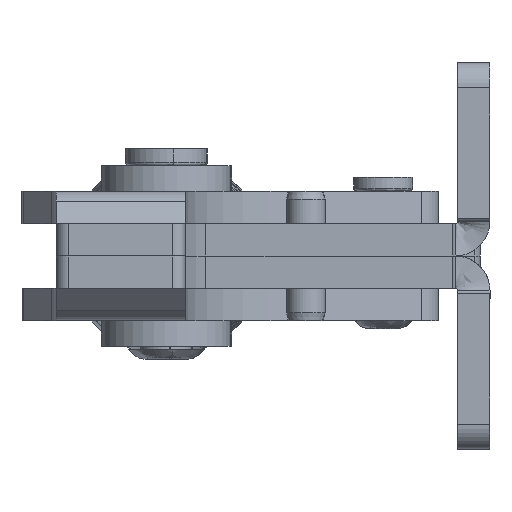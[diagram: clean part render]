
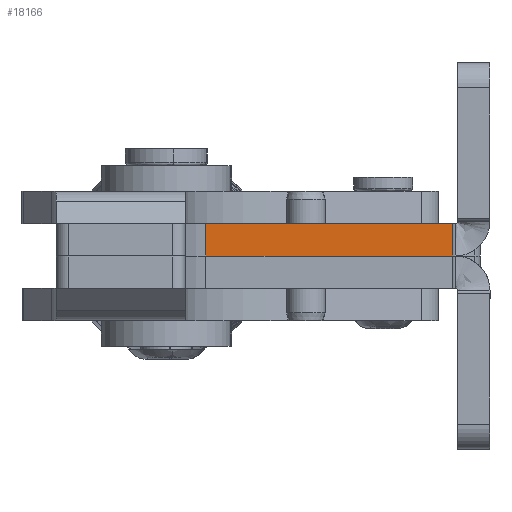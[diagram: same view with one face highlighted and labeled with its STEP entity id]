
A CAD part, left-side view. The second image highlights one B-rep face of the part: STEP entity #18166.
In plain terms, the highlighted planar face has unit normal (-1, 0, 0).
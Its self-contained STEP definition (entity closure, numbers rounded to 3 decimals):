
#29 = LINE ( 'NONE', #30375, #36038 ) ;
#189 = PLANE ( 'NONE',  #15572 ) ;
#228 = ORIENTED_EDGE ( 'NONE', *, *, #23972, .F. ) ;
#2698 = LINE ( 'NONE', #36224, #37845 ) ;
#3626 = CARTESIAN_POINT ( 'NONE',  ( -30., -10.75, -5. ) ) ;
#4344 = VECTOR ( 'NONE', #35702, 1000. ) ;
#5315 = CARTESIAN_POINT ( 'NONE',  ( -30., -39., 0. ) ) ;
#5464 = ORIENTED_EDGE ( 'NONE', *, *, #27989, .F. ) ;
#7713 = VERTEX_POINT ( 'NONE', #38721 ) ;
#9544 = LINE ( 'NONE', #3626, #31269 ) ;
#12030 = DIRECTION ( 'NONE',  ( 0., 0., 1. ) ) ;
#14774 = LINE ( 'NONE', #5315, #4344 ) ;
#15388 = DIRECTION ( 'NONE',  ( 0., 1., 0. ) ) ;
#15572 = AXIS2_PLACEMENT_3D ( 'NONE', #18314, #27406, #12030 ) ;
#15770 = EDGE_CURVE ( 'NONE', #23213, #16513, #14774, .T. ) ;
#16513 = VERTEX_POINT ( 'NONE', #17622 ) ;
#17331 = EDGE_LOOP ( 'NONE', ( #5464, #28499, #28837, #228 ) ) ;
#17622 = CARTESIAN_POINT ( 'NONE',  ( -30., 27.469, 0. ) ) ;
#18166 = ADVANCED_FACE ( 'NONE', ( #27023 ), #189, .T. ) ;
#18278 = CARTESIAN_POINT ( 'NONE',  ( -30., -10.75, -5. ) ) ;
#18314 = CARTESIAN_POINT ( 'NONE',  ( -30., -39., -5. ) ) ;
#20437 = DIRECTION ( 'NONE',  ( 0., 0., 1. ) ) ;
#20953 = CARTESIAN_POINT ( 'NONE',  ( -30., -10.75, 0. ) ) ;
#23213 = VERTEX_POINT ( 'NONE', #20953 ) ;
#23972 = EDGE_CURVE ( 'NONE', #7713, #16513, #2698, .T. ) ;
#27023 = FACE_OUTER_BOUND ( 'NONE', #17331, .T. ) ;
#27406 = DIRECTION ( 'NONE',  ( -1., 0., 0. ) ) ;
#27989 = EDGE_CURVE ( 'NONE', #36957, #7713, #29, .T. ) ;
#28499 = ORIENTED_EDGE ( 'NONE', *, *, #30037, .T. ) ;
#28837 = ORIENTED_EDGE ( 'NONE', *, *, #15770, .T. ) ;
#30037 = EDGE_CURVE ( 'NONE', #36957, #23213, #9544, .T. ) ;
#30067 = DIRECTION ( 'NONE',  ( 0., 0., 1. ) ) ;
#30375 = CARTESIAN_POINT ( 'NONE',  ( -30., 33.49, -5. ) ) ;
#31269 = VECTOR ( 'NONE', #30067, 1000. ) ;
#35702 = DIRECTION ( 'NONE',  ( 0., 1., 0. ) ) ;
#36038 = VECTOR ( 'NONE', #15388, 1000. ) ;
#36224 = CARTESIAN_POINT ( 'NONE',  ( -30., 27.469, -5. ) ) ;
#36957 = VERTEX_POINT ( 'NONE', #18278 ) ;
#37845 = VECTOR ( 'NONE', #20437, 1000. ) ;
#38721 = CARTESIAN_POINT ( 'NONE',  ( -30., 27.469, -5. ) ) ;
